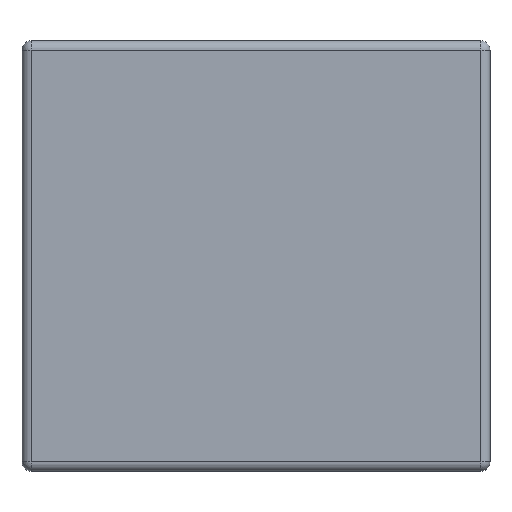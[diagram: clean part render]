
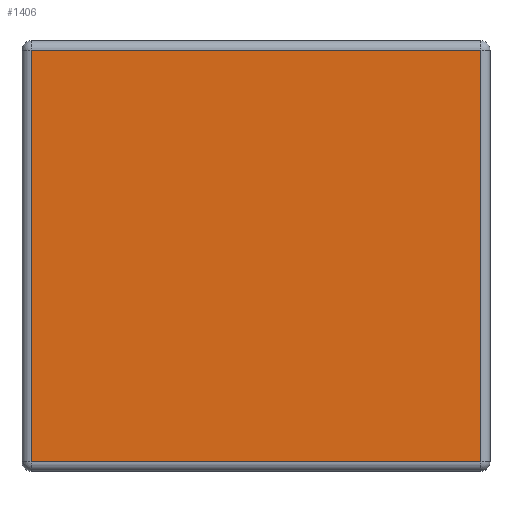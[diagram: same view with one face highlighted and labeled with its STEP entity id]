
A CAD part, front view. The second image highlights one B-rep face of the part: STEP entity #1406.
In plain terms, the highlighted planar face has unit normal (0, -1, 0).
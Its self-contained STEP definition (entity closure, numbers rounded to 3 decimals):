
#129=DIRECTION('',(0.,0.,1.));
#130=VECTOR('',#129,22.);
#131=CARTESIAN_POINT('',(-12.,0.,-11.));
#132=LINE('',#131,#130);
#462=DIRECTION('',(-1.,0.,0.));
#463=VECTOR('',#462,24.);
#464=CARTESIAN_POINT('',(12.,0.,-11.));
#465=LINE('',#464,#463);
#470=DIRECTION('',(0.,0.,-1.));
#471=VECTOR('',#470,22.);
#472=CARTESIAN_POINT('',(12.,0.,11.));
#473=LINE('',#472,#471);
#520=DIRECTION('',(1.,0.,0.));
#521=VECTOR('',#520,24.);
#522=CARTESIAN_POINT('',(-12.,0.,11.));
#523=LINE('',#522,#521);
#562=CARTESIAN_POINT('',(12.,0.,11.));
#564=VERTEX_POINT('',#562);
#566=CARTESIAN_POINT('',(-12.,0.,-11.));
#568=VERTEX_POINT('',#566);
#577=CARTESIAN_POINT('',(-12.,0.,11.));
#578=VERTEX_POINT('',#577);
#613=CARTESIAN_POINT('',(12.,0.,-11.));
#614=VERTEX_POINT('',#613);
#1393=CARTESIAN_POINT('',(0.,0.,0.));
#1394=DIRECTION('',(0.,1.,0.));
#1395=DIRECTION('',(0.,0.,1.));
#1396=AXIS2_PLACEMENT_3D('',#1393,#1394,#1395);
#1397=PLANE('',#1396);
#1399=ORIENTED_EDGE('',*,*,#1398,.T.);
#1400=ORIENTED_EDGE('',*,*,#1385,.T.);
#1401=ORIENTED_EDGE('',*,*,#887,.T.);
#1403=ORIENTED_EDGE('',*,*,#1402,.T.);
#1404=EDGE_LOOP('',(#1399,#1400,#1401,#1403));
#1405=FACE_OUTER_BOUND('',#1404,.F.);
#1406=ADVANCED_FACE('',(#1405),#1397,.F.);
#887=EDGE_CURVE('',#568,#578,#132,.T.);
#1385=EDGE_CURVE('',#614,#568,#465,.T.);
#1398=EDGE_CURVE('',#564,#614,#473,.T.);
#1402=EDGE_CURVE('',#578,#564,#523,.T.);
